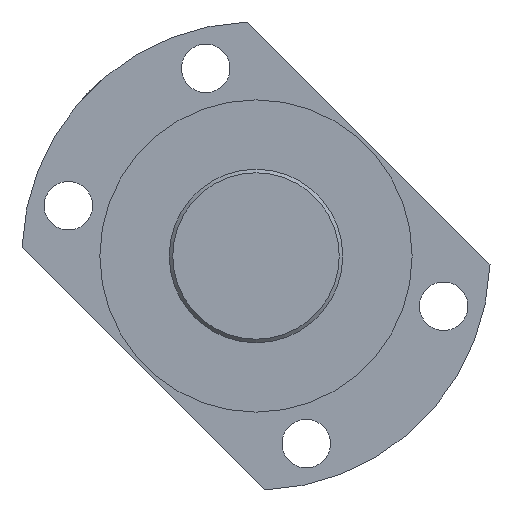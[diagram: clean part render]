
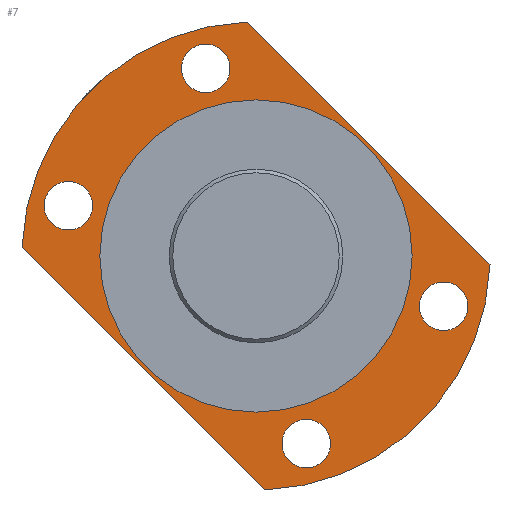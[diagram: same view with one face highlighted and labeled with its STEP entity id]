
A CAD part, left-side view. The second image highlights one B-rep face of the part: STEP entity #7.
In plain terms, the highlighted planar face has unit normal (-1, 0, 0).
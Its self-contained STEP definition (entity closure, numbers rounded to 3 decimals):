
#3 = EDGE_CURVE ( 'NONE', #561, #166, #183, .T. ) ;
#7 = ADVANCED_FACE ( 'NONE', ( #749, #228, #556, #609, #155, #427 ), #43, .T. ) ;
#12 = CARTESIAN_POINT ( 'NONE',  ( 2423.168, 1125.619, 59.042 ) ) ;
#21 = ORIENTED_EDGE ( 'NONE', *, *, #3, .T. ) ;
#28 = CARTESIAN_POINT ( 'NONE',  ( 2423.168, 1038.718, -2.403 ) ) ;
#43 = PLANE ( 'NONE',  #264 ) ;
#44 = EDGE_LOOP ( 'NONE', ( #750 ) ) ;
#48 = DIRECTION ( 'NONE',  ( 0., 0.707, 0.707 ) ) ;
#50 = ORIENTED_EDGE ( 'NONE', *, *, #734, .T. ) ;
#63 = EDGE_CURVE ( 'NONE', #112, #112, #782, .T. ) ;
#76 = CARTESIAN_POINT ( 'NONE',  ( 2423.168, 1138.702, -32.527 ) ) ;
#93 = CIRCLE ( 'NONE', #800, 7. ) ;
#98 = CARTESIAN_POINT ( 'NONE',  ( 2423.168, 1057.033, -9.544 ) ) ;
#108 = DIRECTION ( 'NONE',  ( 0., 0.707, 0.707 ) ) ;
#112 = VERTEX_POINT ( 'NONE', #577 ) ;
#142 = VERTEX_POINT ( 'NONE', #12 ) ;
#155 = FACE_BOUND ( 'NONE', #817, .T. ) ;
#166 = VERTEX_POINT ( 'NONE', #695 ) ;
#179 = CARTESIAN_POINT ( 'NONE',  ( 2423.168, 1160.267, 14.494 ) ) ;
#183 = CIRCLE ( 'NONE', #746, 67.5 ) ;
#188 = EDGE_CURVE ( 'NONE', #845, #845, #518, .T. ) ;
#207 = CIRCLE ( 'NONE', #616, 67.5 ) ;
#213 = DIRECTION ( 'NONE',  ( 0., -0.707, -0.707 ) ) ;
#219 = DIRECTION ( 'NONE',  ( -1., 0., 0. ) ) ;
#228 = FACE_OUTER_BOUND ( 'NONE', #464, .T. ) ;
#234 = CARTESIAN_POINT ( 'NONE',  ( 2423.168, 1165.217, 19.444 ) ) ;
#236 = CARTESIAN_POINT ( 'NONE',  ( 2423.168, 1106.175, 0. ) ) ;
#240 = LINE ( 'NONE', #507, #411 ) ;
#243 = VERTEX_POINT ( 'NONE', #589 ) ;
#252 = AXIS2_PLACEMENT_3D ( 'NONE', #555, #821, #493 ) ;
#264 = AXIS2_PLACEMENT_3D ( 'NONE', #236, #689, #286 ) ;
#286 = DIRECTION ( 'NONE',  ( 0., 1., 0. ) ) ;
#289 = CARTESIAN_POINT ( 'NONE',  ( 2423.168, 1106.175, 0. ) ) ;
#293 = LINE ( 'NONE', #76, #501 ) ;
#304 = ORIENTED_EDGE ( 'NONE', *, *, #655, .T. ) ;
#311 = CARTESIAN_POINT ( 'NONE',  ( 2423.168, 1108.579, 67.457 ) ) ;
#319 = AXIS2_PLACEMENT_3D ( 'NONE', #572, #510, #48 ) ;
#329 = CARTESIAN_POINT ( 'NONE',  ( 2423.168, 1106.175, 45. ) ) ;
#356 = ORIENTED_EDGE ( 'NONE', *, *, #542, .T. ) ;
#361 = DIRECTION ( 'NONE',  ( 0., 0.707, 0.707 ) ) ;
#366 = ORIENTED_EDGE ( 'NONE', *, *, #760, .T. ) ;
#411 = VECTOR ( 'NONE', #108, 1000. ) ;
#412 = AXIS2_PLACEMENT_3D ( 'NONE', #551, #757, #361 ) ;
#427 = FACE_BOUND ( 'NONE', #44, .T. ) ;
#450 = DIRECTION ( 'NONE',  ( 0., 0.707, 0.707 ) ) ;
#460 = CIRCLE ( 'NONE', #319, 7. ) ;
#464 = EDGE_LOOP ( 'NONE', ( #50, #21, #304, #764 ) ) ;
#483 = EDGE_CURVE ( 'NONE', #243, #625, #207, .T. ) ;
#486 = EDGE_LOOP ( 'NONE', ( #366 ) ) ;
#488 = EDGE_CURVE ( 'NONE', #693, #693, #705, .T. ) ;
#493 = DIRECTION ( 'NONE',  ( 0., 0.707, 0.707 ) ) ;
#501 = VECTOR ( 'NONE', #213, 1000. ) ;
#507 = CARTESIAN_POINT ( 'NONE',  ( 2423.168, 1073.648, 32.527 ) ) ;
#510 = DIRECTION ( 'NONE',  ( 1., 0., 0. ) ) ;
#518 = CIRCLE ( 'NONE', #804, 45. ) ;
#542 = EDGE_CURVE ( 'NONE', #829, #829, #93, .T. ) ;
#551 = CARTESIAN_POINT ( 'NONE',  ( 2423.168, 1091.682, -54.092 ) ) ;
#555 = CARTESIAN_POINT ( 'NONE',  ( 2423.168, 1052.084, -14.494 ) ) ;
#556 = FACE_BOUND ( 'NONE', #486, .T. ) ;
#561 = VERTEX_POINT ( 'NONE', #311 ) ;
#572 = CARTESIAN_POINT ( 'NONE',  ( 2423.168, 1120.669, 54.092 ) ) ;
#577 = CARTESIAN_POINT ( 'NONE',  ( 2423.168, 1096.631, -49.142 ) ) ;
#589 = CARTESIAN_POINT ( 'NONE',  ( 2423.168, 1103.772, -67.457 ) ) ;
#609 = FACE_BOUND ( 'NONE', #833, .T. ) ;
#616 = AXIS2_PLACEMENT_3D ( 'NONE', #289, #624, #739 ) ;
#621 = DIRECTION ( 'NONE',  ( 0., 0.707, 0.707 ) ) ;
#624 = DIRECTION ( 'NONE',  ( -1., 0., 0. ) ) ;
#625 = VERTEX_POINT ( 'NONE', #28 ) ;
#635 = DIRECTION ( 'NONE',  ( 0., 0., 1. ) ) ;
#655 = EDGE_CURVE ( 'NONE', #166, #243, #293, .T. ) ;
#684 = ORIENTED_EDGE ( 'NONE', *, *, #488, .T. ) ;
#689 = DIRECTION ( 'NONE',  ( -1., 0., 0. ) ) ;
#693 = VERTEX_POINT ( 'NONE', #98 ) ;
#695 = CARTESIAN_POINT ( 'NONE',  ( 2423.168, 1173.633, 2.403 ) ) ;
#705 = CIRCLE ( 'NONE', #252, 7. ) ;
#711 = EDGE_LOOP ( 'NONE', ( #823 ) ) ;
#712 = DIRECTION ( 'NONE',  ( -1., 0., 0. ) ) ;
#720 = CARTESIAN_POINT ( 'NONE',  ( 2423.168, 1106.175, 0. ) ) ;
#734 = EDGE_CURVE ( 'NONE', #625, #561, #240, .T. ) ;
#739 = DIRECTION ( 'NONE',  ( 0., 0.707, 0.707 ) ) ;
#744 = CARTESIAN_POINT ( 'NONE',  ( 2423.168, 1106.175, 0. ) ) ;
#746 = AXIS2_PLACEMENT_3D ( 'NONE', #744, #219, #621 ) ;
#749 = FACE_BOUND ( 'NONE', #711, .T. ) ;
#750 = ORIENTED_EDGE ( 'NONE', *, *, #63, .T. ) ;
#757 = DIRECTION ( 'NONE',  ( 1., 0., 0. ) ) ;
#760 = EDGE_CURVE ( 'NONE', #142, #142, #460, .T. ) ;
#764 = ORIENTED_EDGE ( 'NONE', *, *, #483, .T. ) ;
#782 = CIRCLE ( 'NONE', #412, 7. ) ;
#800 = AXIS2_PLACEMENT_3D ( 'NONE', #179, #840, #450 ) ;
#804 = AXIS2_PLACEMENT_3D ( 'NONE', #720, #712, #635 ) ;
#817 = EDGE_LOOP ( 'NONE', ( #684 ) ) ;
#821 = DIRECTION ( 'NONE',  ( 1., 0., 0. ) ) ;
#823 = ORIENTED_EDGE ( 'NONE', *, *, #188, .F. ) ;
#829 = VERTEX_POINT ( 'NONE', #234 ) ;
#833 = EDGE_LOOP ( 'NONE', ( #356 ) ) ;
#840 = DIRECTION ( 'NONE',  ( 1., 0., 0. ) ) ;
#845 = VERTEX_POINT ( 'NONE', #329 ) ;
